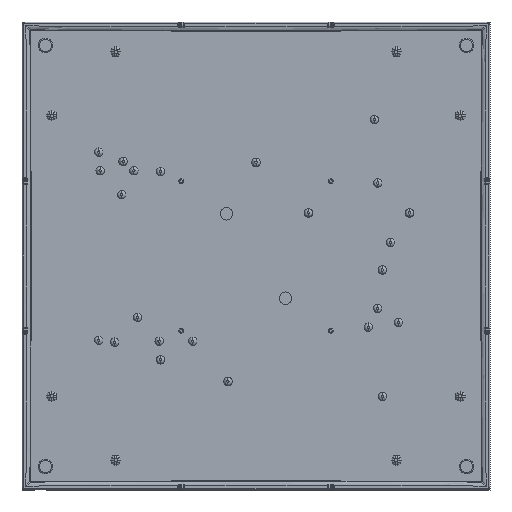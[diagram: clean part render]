
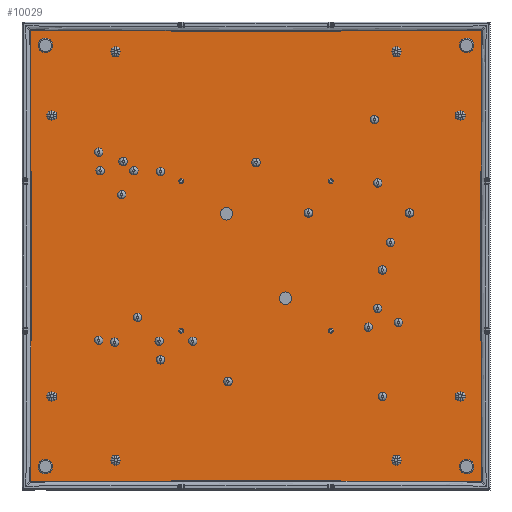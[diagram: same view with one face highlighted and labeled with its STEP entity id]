
A CAD part, front view. The second image highlights one B-rep face of the part: STEP entity #10029.
In plain terms, the highlighted planar face has unit normal (0, -1, 0).
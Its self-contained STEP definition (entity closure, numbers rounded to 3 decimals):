
#1325=CARTESIAN_POINT('',(-120.647,-1.,
-119.934));
#1326=CARTESIAN_POINT('',(-120.647,-1.,
-119.959));
#1327=CARTESIAN_POINT('',(-120.646,-1.,-120.008));
#1328=CARTESIAN_POINT('',(-120.639,-1.,-120.076));
#1329=CARTESIAN_POINT('',(-120.628,-1.,-120.138));
#1330=CARTESIAN_POINT('',(-120.613,-1.,-120.196));
#1331=CARTESIAN_POINT('',(-120.595,-1.,-120.249));
#1332=CARTESIAN_POINT('',(-120.574,-1.,-120.298));
#1333=CARTESIAN_POINT('',(-120.549,-1.,-120.343));
#1334=CARTESIAN_POINT('',(-120.522,-1.,-120.385));
#1335=CARTESIAN_POINT('',(-120.492,-1.,-120.424));
#1336=CARTESIAN_POINT('',(-120.459,-1.,-120.459));
#1337=CARTESIAN_POINT('',(-120.424,-1.,-120.492));
#1338=CARTESIAN_POINT('',(-120.385,-1.,-120.522));
#1339=CARTESIAN_POINT('',(-120.343,-1.,-120.549));
#1340=CARTESIAN_POINT('',(-120.298,-1.,-120.574));
#1341=CARTESIAN_POINT('',(-120.249,-1.,-120.595));
#1342=CARTESIAN_POINT('',(-120.196,-1.,-120.613));
#1343=CARTESIAN_POINT('',(-120.138,-1.,-120.628));
#1344=CARTESIAN_POINT('',(-120.076,-1.,-120.639));
#1345=CARTESIAN_POINT('',(-120.008,-1.,
-120.646));
#1346=CARTESIAN_POINT('',(-119.959,-1.,-120.647));
#1347=CARTESIAN_POINT('',(-119.934,-1.,-120.647));
#1349=CARTESIAN_POINT('',(-119.934,-1.,
120.647));
#1350=CARTESIAN_POINT('',(-119.959,-1.,
120.647));
#1351=CARTESIAN_POINT('',(-120.008,-1.,120.646));
#1352=CARTESIAN_POINT('',(-120.076,-1.,120.639));
#1353=CARTESIAN_POINT('',(-120.138,-1.,120.628));
#1354=CARTESIAN_POINT('',(-120.196,-1.,120.613));
#1355=CARTESIAN_POINT('',(-120.249,-1.,120.595));
#1356=CARTESIAN_POINT('',(-120.298,-1.,120.574));
#1357=CARTESIAN_POINT('',(-120.343,-1.,120.549));
#1358=CARTESIAN_POINT('',(-120.385,-1.,120.522));
#1359=CARTESIAN_POINT('',(-120.424,-1.,120.492));
#1360=CARTESIAN_POINT('',(-120.459,-1.,120.459));
#1361=CARTESIAN_POINT('',(-120.492,-1.,120.424));
#1362=CARTESIAN_POINT('',(-120.522,-1.,120.385));
#1363=CARTESIAN_POINT('',(-120.549,-1.,120.343));
#1364=CARTESIAN_POINT('',(-120.574,-1.,120.298));
#1365=CARTESIAN_POINT('',(-120.595,-1.,120.249));
#1366=CARTESIAN_POINT('',(-120.613,-1.,120.196));
#1367=CARTESIAN_POINT('',(-120.628,-1.,120.138));
#1368=CARTESIAN_POINT('',(-120.639,-1.,120.076));
#1369=CARTESIAN_POINT('',(-120.646,-1.,120.008));
#1370=CARTESIAN_POINT('',(-120.647,-1.,
119.959));
#1371=CARTESIAN_POINT('',(-120.647,-1.,
119.934));
#1373=CARTESIAN_POINT('',(0.,-1.,13222.));
#1374=DIRECTION('',(0.,-1.,0.));
#1375=DIRECTION('',(-0.009,0.,-1.));
#1376=AXIS2_PLACEMENT_3D('',#1373,#1374,#1375);
#1378=CARTESIAN_POINT('',(120.647,-1.,
119.934));
#1379=CARTESIAN_POINT('',(120.647,-1.,
119.959));
#1380=CARTESIAN_POINT('',(120.646,-1.,120.008));
#1381=CARTESIAN_POINT('',(120.639,-1.,120.076));
#1382=CARTESIAN_POINT('',(120.628,-1.,120.138));
#1383=CARTESIAN_POINT('',(120.613,-1.,120.196));
#1384=CARTESIAN_POINT('',(120.595,-1.,120.249));
#1385=CARTESIAN_POINT('',(120.574,-1.,120.298));
#1386=CARTESIAN_POINT('',(120.549,-1.,120.343));
#1387=CARTESIAN_POINT('',(120.522,-1.,120.385));
#1388=CARTESIAN_POINT('',(120.492,-1.,120.424));
#1389=CARTESIAN_POINT('',(120.459,-1.,120.459));
#1390=CARTESIAN_POINT('',(120.424,-1.,120.492));
#1391=CARTESIAN_POINT('',(120.385,-1.,120.522));
#1392=CARTESIAN_POINT('',(120.343,-1.,120.549));
#1393=CARTESIAN_POINT('',(120.298,-1.,120.574));
#1394=CARTESIAN_POINT('',(120.249,-1.,120.595));
#1395=CARTESIAN_POINT('',(120.196,-1.,120.613));
#1396=CARTESIAN_POINT('',(120.138,-1.,120.628));
#1397=CARTESIAN_POINT('',(120.076,-1.,120.639));
#1398=CARTESIAN_POINT('',(120.008,-1.,
120.646));
#1399=CARTESIAN_POINT('',(119.959,-1.,120.647));
#1400=CARTESIAN_POINT('',(119.934,-1.,120.647));
#1402=CARTESIAN_POINT('',(119.934,-1.,
-120.647));
#1403=CARTESIAN_POINT('',(119.959,-1.,
-120.647));
#1404=CARTESIAN_POINT('',(120.008,-1.,-120.646));
#1405=CARTESIAN_POINT('',(120.076,-1.,
-120.639));
#1406=CARTESIAN_POINT('',(120.138,-1.,-120.628));
#1407=CARTESIAN_POINT('',(120.196,-1.,-120.613));
#1408=CARTESIAN_POINT('',(120.249,-1.,-120.595));
#1409=CARTESIAN_POINT('',(120.298,-1.,-120.574));
#1410=CARTESIAN_POINT('',(120.343,-1.,-120.549));
#1411=CARTESIAN_POINT('',(120.385,-1.,-120.522));
#1412=CARTESIAN_POINT('',(120.424,-1.,-120.492));
#1413=CARTESIAN_POINT('',(120.459,-1.,-120.459));
#1414=CARTESIAN_POINT('',(120.492,-1.,-120.424));
#1415=CARTESIAN_POINT('',(120.522,-1.,-120.385));
#1416=CARTESIAN_POINT('',(120.549,-1.,-120.343));
#1417=CARTESIAN_POINT('',(120.574,-1.,-120.298));
#1418=CARTESIAN_POINT('',(120.595,-1.,-120.249));
#1419=CARTESIAN_POINT('',(120.613,-1.,-120.196));
#1420=CARTESIAN_POINT('',(120.628,-1.,-120.138));
#1421=CARTESIAN_POINT('',(120.639,-1.,-120.076));
#1422=CARTESIAN_POINT('',(120.646,-1.,
-120.008));
#1423=CARTESIAN_POINT('',(120.647,-1.,-119.959));
#1424=CARTESIAN_POINT('',(120.647,-1.,-119.934));
#4122=CARTESIAN_POINT('',(-13222.,-1.,0.));
#4123=DIRECTION('',(0.,1.,0.));
#4124=DIRECTION('',(1.,0.,0.009));
#4125=AXIS2_PLACEMENT_3D('',#4122,#4123,#4124);
#4133=CARTESIAN_POINT('',(0.,-1.,-13222.));
#4134=DIRECTION('',(0.,1.,0.));
#4135=DIRECTION('',(-0.009,0.,1.));
#4136=AXIS2_PLACEMENT_3D('',#4133,#4134,#4135);
#4166=CARTESIAN_POINT('',(13222.,-1.,0.));
#4167=DIRECTION('',(0.,1.,0.));
#4168=DIRECTION('',(-1.,0.,-0.009));
#4169=AXIS2_PLACEMENT_3D('',#4166,#4167,#4168);
#8386=VERTEX_POINT('',#1325);
#8387=VERTEX_POINT('',#1347);
#8391=CARTESIAN_POINT('',(-120.647,-1.,
119.934));
#8392=VERTEX_POINT('',#8391);
#8393=CARTESIAN_POINT('',(119.934,-1.,
-120.647));
#8394=VERTEX_POINT('',#8393);
#8399=VERTEX_POINT('',#1349);
#8402=VERTEX_POINT('',#1378);
#8403=VERTEX_POINT('',#1400);
#8407=VERTEX_POINT('',#1424);
#10006=CARTESIAN_POINT('',(0.,-1.,0.));
#10007=DIRECTION('',(0.,-1.,0.));
#10008=DIRECTION('',(-1.,0.,0.));
#10009=AXIS2_PLACEMENT_3D('',#10006,#10007,#10008);
#10010=PLANE('',#10009);
#10012=ORIENTED_EDGE('',*,*,#10011,.F.);
#10014=ORIENTED_EDGE('',*,*,#10013,.F.);
#10016=ORIENTED_EDGE('',*,*,#10015,.F.);
#10018=ORIENTED_EDGE('',*,*,#10017,.T.);
#10020=ORIENTED_EDGE('',*,*,#10019,.F.);
#10022=ORIENTED_EDGE('',*,*,#10021,.F.);
#10024=ORIENTED_EDGE('',*,*,#10023,.F.);
#10026=ORIENTED_EDGE('',*,*,#10025,.F.);
#10027=EDGE_LOOP('',(#10012,#10014,#10016,#10018,#10020,#10022,#10024,#10026));
#10028=FACE_OUTER_BOUND('',#10027,.F.);
#10029=ADVANCED_FACE('',(#10028),#10010,.T.);
#1348=B_SPLINE_CURVE_WITH_KNOTS('',3,(#1325,#1326,#1327,#1328,#1329,#1330,#1331,
#1332,#1333,#1334,#1335,#1336,#1337,#1338,#1339,#1340,#1341,#1342,#1343,#1344,
#1345,#1346,#1347),.UNSPECIFIED.,.F.,.F.,(4,1,1,1,1,1,1,1,1,1,1,1,1,1,1,1,1,1,1,
1,4),(0.,0.05,0.1,0.15,0.2,0.25,0.3,0.35,0.4,0.45,0.5,
0.55,0.6,0.65,0.7,0.75,0.8,0.85,0.9,0.95,1.),.UNSPECIFIED.);
#1372=B_SPLINE_CURVE_WITH_KNOTS('',3,(#1349,#1350,#1351,#1352,#1353,#1354,#1355,
#1356,#1357,#1358,#1359,#1360,#1361,#1362,#1363,#1364,#1365,#1366,#1367,#1368,
#1369,#1370,#1371),.UNSPECIFIED.,.F.,.F.,(4,1,1,1,1,1,1,1,1,1,1,1,1,1,1,1,1,1,1,
1,4),(0.,0.05,0.1,0.15,0.2,0.25,0.3,0.35,0.4,0.45,0.5,
0.55,0.6,0.65,0.7,0.75,0.8,0.85,0.9,0.95,1.),.UNSPECIFIED.);
#1377=CIRCLE('',#1376,13101.902);
#1401=B_SPLINE_CURVE_WITH_KNOTS('',3,(#1378,#1379,#1380,#1381,#1382,#1383,#1384,
#1385,#1386,#1387,#1388,#1389,#1390,#1391,#1392,#1393,#1394,#1395,#1396,#1397,
#1398,#1399,#1400),.UNSPECIFIED.,.F.,.F.,(4,1,1,1,1,1,1,1,1,1,1,1,1,1,1,1,1,1,1,
1,4),(0.,0.05,0.1,0.15,0.2,0.25,0.3,0.35,0.4,0.45,0.5,
0.55,0.6,0.65,0.7,0.75,0.8,0.85,0.9,0.95,1.),.UNSPECIFIED.);
#1425=B_SPLINE_CURVE_WITH_KNOTS('',3,(#1402,#1403,#1404,#1405,#1406,#1407,#1408,
#1409,#1410,#1411,#1412,#1413,#1414,#1415,#1416,#1417,#1418,#1419,#1420,#1421,
#1422,#1423,#1424),.UNSPECIFIED.,.F.,.F.,(4,1,1,1,1,1,1,1,1,1,1,1,1,1,1,1,1,1,1,
1,4),(0.,0.05,0.1,0.15,0.2,0.25,0.3,0.35,0.4,0.45,0.5,
0.55,0.6,0.65,0.7,0.75,0.8,0.85,0.9,0.95,1.),.UNSPECIFIED.);
#4126=CIRCLE('',#4125,13101.902);
#4137=CIRCLE('',#4136,13101.902);
#4170=CIRCLE('',#4169,13101.902);
#10011=EDGE_CURVE('',#8386,#8387,#1348,.T.);
#10013=EDGE_CURVE('',#8392,#8386,#4126,.T.);
#10015=EDGE_CURVE('',#8399,#8392,#1372,.T.);
#10017=EDGE_CURVE('',#8399,#8403,#1377,.T.);
#10019=EDGE_CURVE('',#8402,#8403,#1401,.T.);
#10021=EDGE_CURVE('',#8407,#8402,#4170,.T.);
#10023=EDGE_CURVE('',#8394,#8407,#1425,.T.);
#10025=EDGE_CURVE('',#8387,#8394,#4137,.T.);
